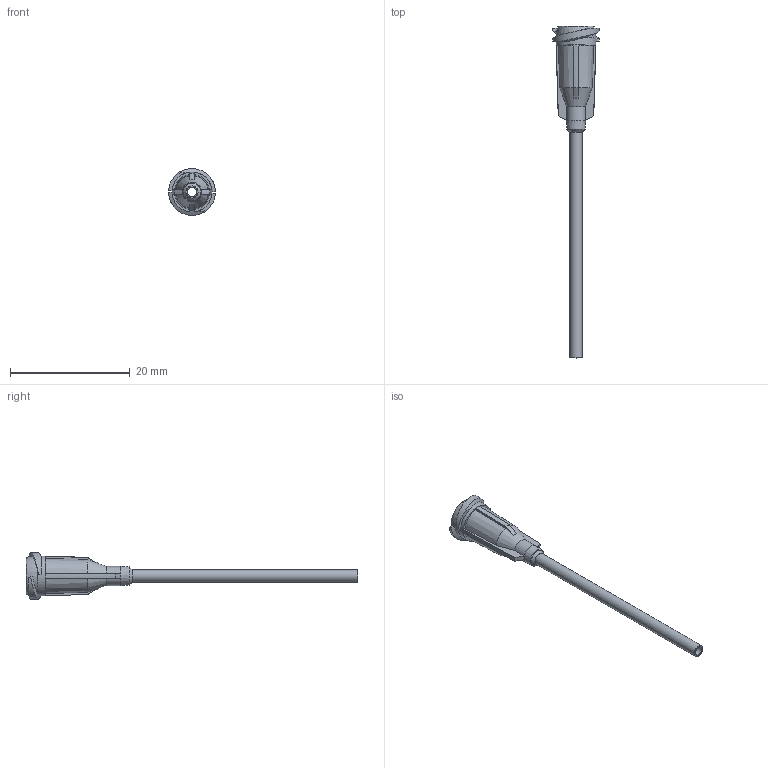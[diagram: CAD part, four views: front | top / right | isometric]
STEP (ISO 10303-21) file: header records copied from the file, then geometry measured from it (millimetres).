
FILE_DESCRIPTION (( 'STEP AP214' ), '1' );
FILE_NAME ('DAV PP 14 15.STEP', '2023-09-28T15:12:01', ( '' ), ( '' ), 'SwSTEP 2.0', 'SolidWorks 2022', '' );
FILE_SCHEMA (( 'AUTOMOTIVE_DESIGN' ));
Length unit declared in the file: millimetre
Products named in the file (1): DAV PP 14 15
Bounding box: 7.82 x 55.47 x 7.82 mm (x, y, z)
Volume: 302.1 mm3; surface area: 975.7 mm2
Topology: 1 solids, 1 shells, 63 faces, 161 edges, 101 vertices
Faces by surface type: plane 23, cone 16, bspline 10, cylinder 7, torus 7
Full cylindrical faces by diameter (mm): 1.55 x1, 2.03 x1, 2.87 x1, 6.655 x1
Entity records: 2066 total; most frequent: CARTESIAN_POINT 796, ORIENTED_EDGE 262, DIRECTION 228, EDGE_CURVE 131, AXIS2_PLACEMENT_3D 99, VERTEX_POINT 89, EDGE_LOOP 80, FACE_OUTER_BOUND 71
